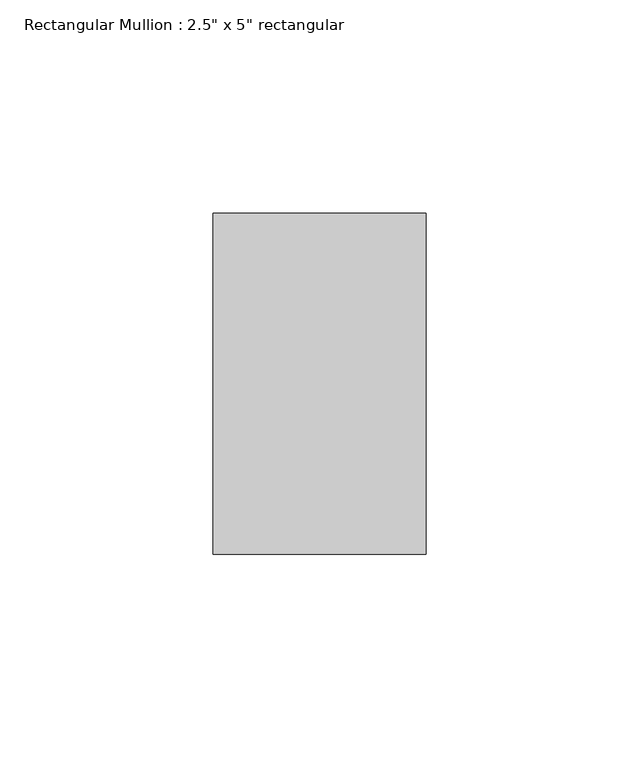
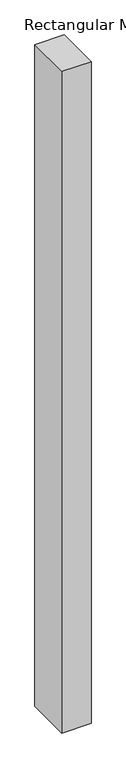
"""IFC4 building model written with IfcOpenShell, lengths in millimetres: member geometry."""

from ifc_helpers import new_model, si_unit, frame, origin, place, context, project, spatial, polyline, outline, extrude, source, transform, mapped, element, save


def member_68cf1f2c(model_context):
    return source(origin(), model_context, "Body", "SweptSolid", [
        extrude(outline(polyline([(25.0, 40.0), (25.0, -40.0), (-25.0, -40.0), (-25.0, 40.0), (25.0, 40.0)])), frame((0.0, 0.0, -1199.6707214), z_axis=(0.0, 0.0, 1.0), x_axis=(1.0, 0.0, 0.0)), (0.0, 0.0, 1.0), 1199.6707214),
    ])


if __name__ == "__main__":
    model = new_model("IFC4")
    model_context = context("Model", 3, world=origin())
    ifc_project = project(units=[si_unit("LENGTHUNIT", "METRE", prefix="MILLI")], contexts=[model_context])
    site = spatial("IfcSite", under=ifc_project)
    building = spatial("IfcBuilding", under=site)
    placement = place(None, origin())
    member_shape = member_68cf1f2c(model_context)
    element("IfcMember", 1, ObjectType="Rectangular Mullion : 2.5\" x 5\" rectangular", at=placement, inside=building, context=model_context, shape_type="MappedRepresentation", body=[
        mapped(member_shape, transform((0.0, 0.0, 0.0), x_axis=(1.0, 0.0, 0.0), y_axis=(0.0, 1.0, 0.0), z_axis=(0.0, 0.0, 1.0))),
    ])
    save(model, "model.ifc")
